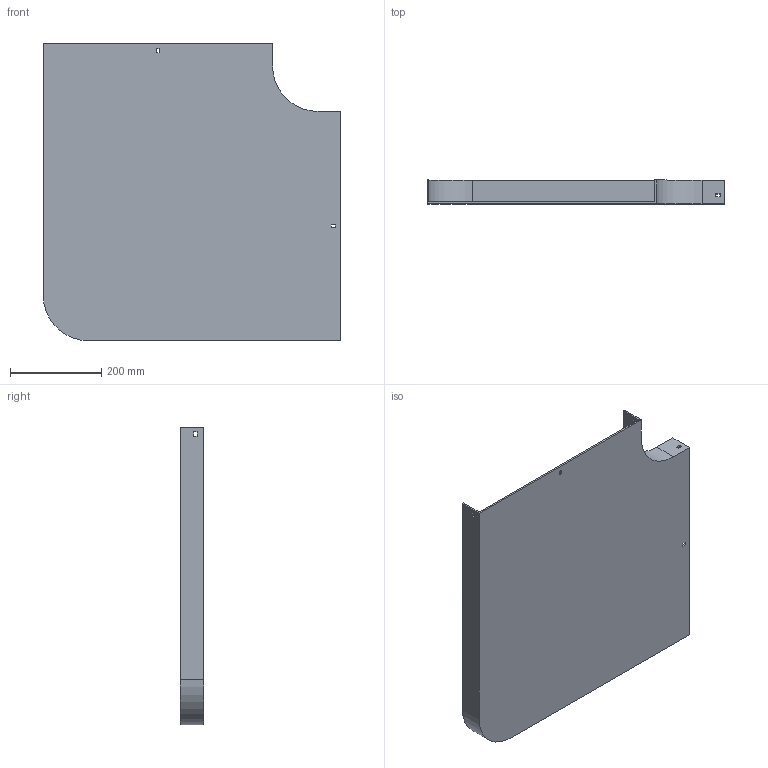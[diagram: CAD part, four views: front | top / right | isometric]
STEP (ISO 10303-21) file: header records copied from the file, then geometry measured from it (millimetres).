
FILE_DESCRIPTION (( 'STEP AP214' ), '1' );
FILE_NAME ('10B1B500.step', '2025-02-21T09:40:45', ( '' ), ( '' ), 'SwSTEP 2.0', 'SolidWorks 2023', '' );
FILE_SCHEMA (( 'AUTOMOTIVE_DESIGN' ));
Length unit declared in the file: millimetre
Products named in the file (1): 10B1B500
Bounding box: 654 x 52 x 654 mm (x, y, z)
Volume: 1675253 mm3; surface area: 967515 mm2
Topology: 1 solids, 1 shells, 42 faces, 120 edges, 80 vertices
Faces by surface type: plane 38, cylinder 4
Entity records: 1399 total; most frequent: CARTESIAN_POINT 243, ORIENTED_EDGE 240, DIRECTION 214, EDGE_CURVE 120, VECTOR 112, LINE 112, VERTEX_POINT 80, EDGE_LOOP 54
